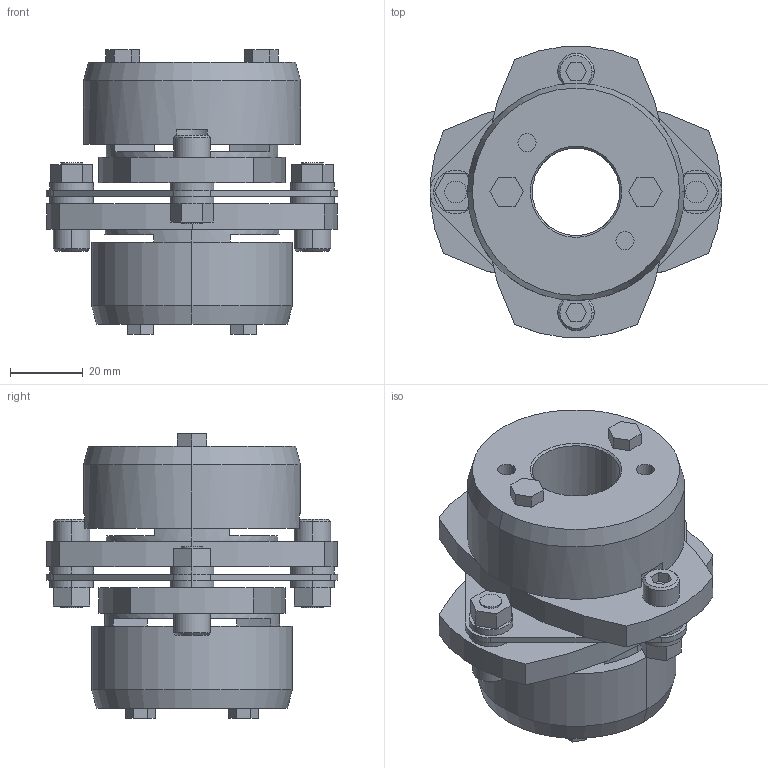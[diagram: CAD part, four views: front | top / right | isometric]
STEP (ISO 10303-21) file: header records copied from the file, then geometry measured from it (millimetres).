
FILE_DESCRIPTION((''),'2;1');
FILE_NAME('LCS-80T7-24×28.stp','2011-09-12T16:32:21',(''),(''),'AutoCAD STEP 2000i','AutoCAD 2000i',', , ');
FILE_SCHEMA(('CONFIG_CONTROL_DESIGN'));
Length unit declared in the file: millimetre
Products named in the file (11): LCS-80T7-24×28; 忣兜1; LC80T7-T028; LC80T7-T024-1; LC80T7-T024; LC80T7-T022; LC80T7-T019-1; LC80T7-T019; LC80T7-T017-1; LC80T7-T017; LCS80-ITA
Assembly tree (10 placements, depth 2):
  LCS-80T7-24×28
    忣兜1
    LC80T7-T028
    LC80T7-T024-1
    LC80T7-T024
    LC80T7-T022
    LC80T7-T019-1
    LC80T7-T019
    LC80T7-T017-1
    LC80T7-T017
    LCS80-ITA
Bounding box: 80 x 79.95 x 78.05 mm (x, y, z)
Volume: 147122 mm3; surface area: 42922 mm2
Topology: 1 solids, 1 shells, 236 faces, 580 edges, 380 vertices
Faces by surface type: plane 134, cylinder 82, cone 20
Entity records: 7259 total; most frequent: DIRECTION 1278, CARTESIAN_POINT 1207, ORIENTED_EDGE 1160, EDGE_CURVE 580, AXIS2_PLACEMENT_3D 451, VERTEX_POINT 380, VECTOR 376, LINE 376
